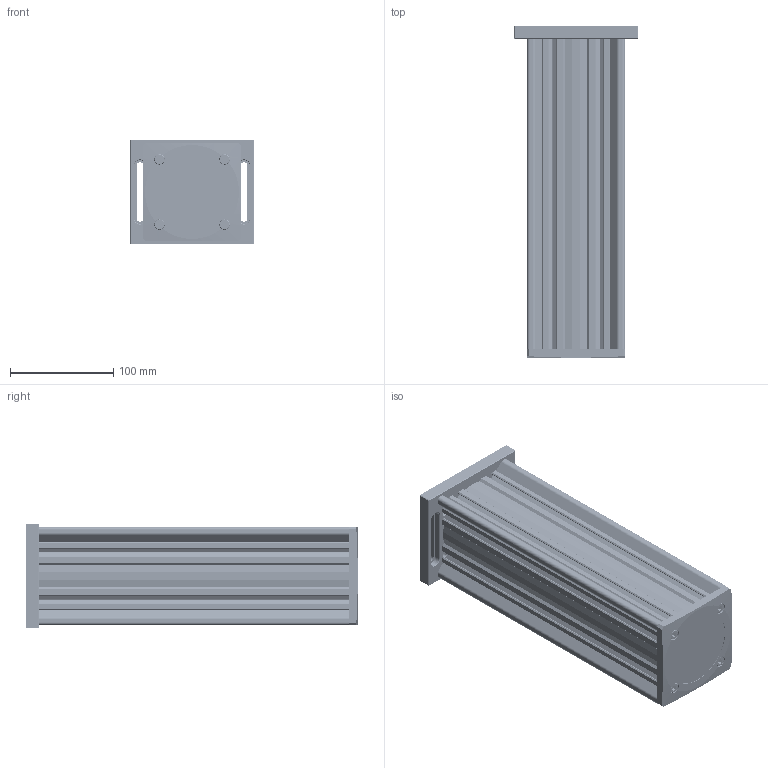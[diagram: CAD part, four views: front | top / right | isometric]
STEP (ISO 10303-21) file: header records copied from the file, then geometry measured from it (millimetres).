
FILE_DESCRIPTION((''),'2;1');
FILE_NAME('OPH95-300V_ASM','2023-07-24T10:01:16',('R&D'),(''),'CREO PARAMETRIC BY PTC INC, 2021063','CREO PARAMETRIC BY PTC INC, 2021063','');
FILE_SCHEMA(('CONFIG_CONTROL_DESIGN'));
Products named in the file (5): OPH95-300; OPS95-MO; OPH95-ML; ISO4762-M6X10-8_8; OPH95-300V_ASM
Assembly tree (11 placements, depth 2):
  OPH95-300V_ASM
    OPH95-300
    OPS95-MO
    OPH95-ML
    ISO4762-M6X10-8_8  x8
Bounding box: 119 x 321 x 101.5 mm (x, y, z)
Volume: 933474.2 mm3; surface area: 392950.7 mm2
Topology: 11 solids, 52 shells, 2366 faces, 6496 edges, 4216 vertices
Faces by surface type: cylinder 1282, bspline 540, plane 418, cone 110, torus 16
Entity records: 197316 total; most frequent: CARTESIAN_POINT 147359, ORIENTED_EDGE 12212, DIRECTION 7202, EDGE_CURVE 6174, VERTEX_POINT 4006, B_SPLINE_CURVE_WITH_KNOTS 2982, VECTOR 2584, LINE 2584
